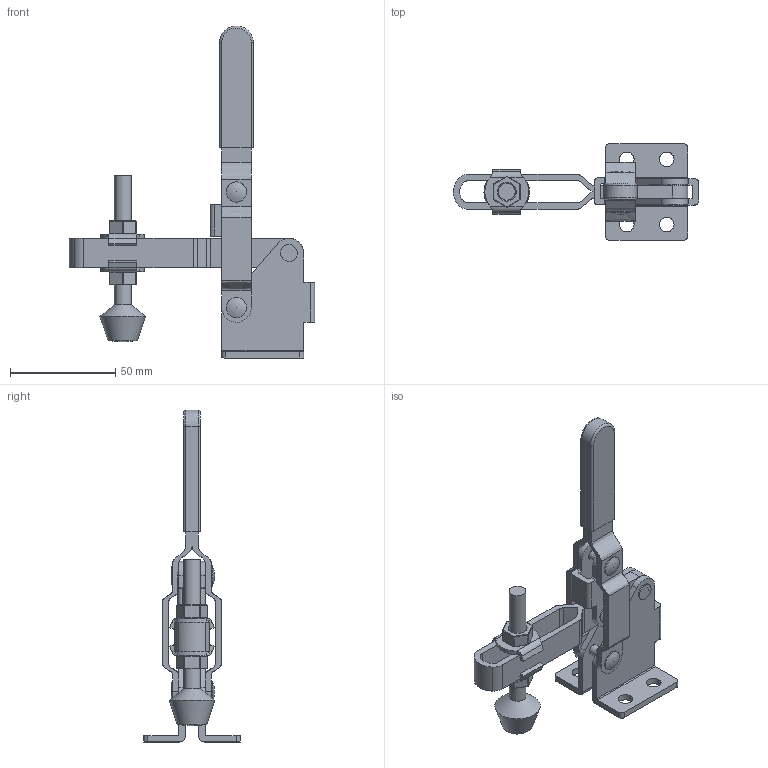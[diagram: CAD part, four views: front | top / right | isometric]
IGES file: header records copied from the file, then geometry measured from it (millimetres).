
Global section: file name: DR_018-11F; native system: Autodesk Inventor 2015; preprocessor: unknown; author: Administrator; date: 20180302.133951; units: millimetre
Bounding box: 116.69 x 46 x 157.99 mm (x, y, z)
Volume: 52394.3 mm3; surface area: 36638.1 mm2
Topology: 10 solids, 10 shells, 319 faces, 814 edges, 520 vertices
Faces by surface type: bspline 319
